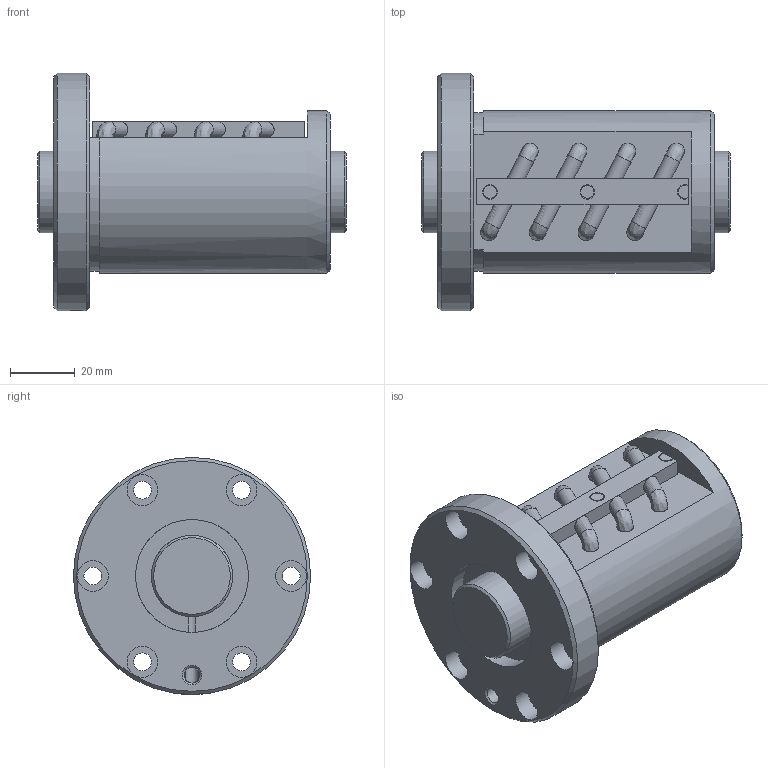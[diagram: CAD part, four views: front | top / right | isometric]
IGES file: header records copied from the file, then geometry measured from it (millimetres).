
Start section: Data from Parasolid IGES Translator 26.0.171, Copyright(c) 2006 Siemens PLM Software. All Rights Reserved.
Global section: file name: BIF2505V-10RRG0+95LC0_000.igs; native system: By Siemens PLM Incorporated; preprocessor: XPlus GENERIC/IGES 26.0.171; author: Noname; organization: Noname; date: 20240715.081725; units: millimetre
Bounding box: 95 x 73 x 73 mm (x, y, z)
Surface area: 40268.2 mm2 (no closed solid volume)
Topology: 0 solids, 0 shells, 134 faces, 688 edges, 646 vertices
Faces by surface type: revolution 87, extrusion 47
